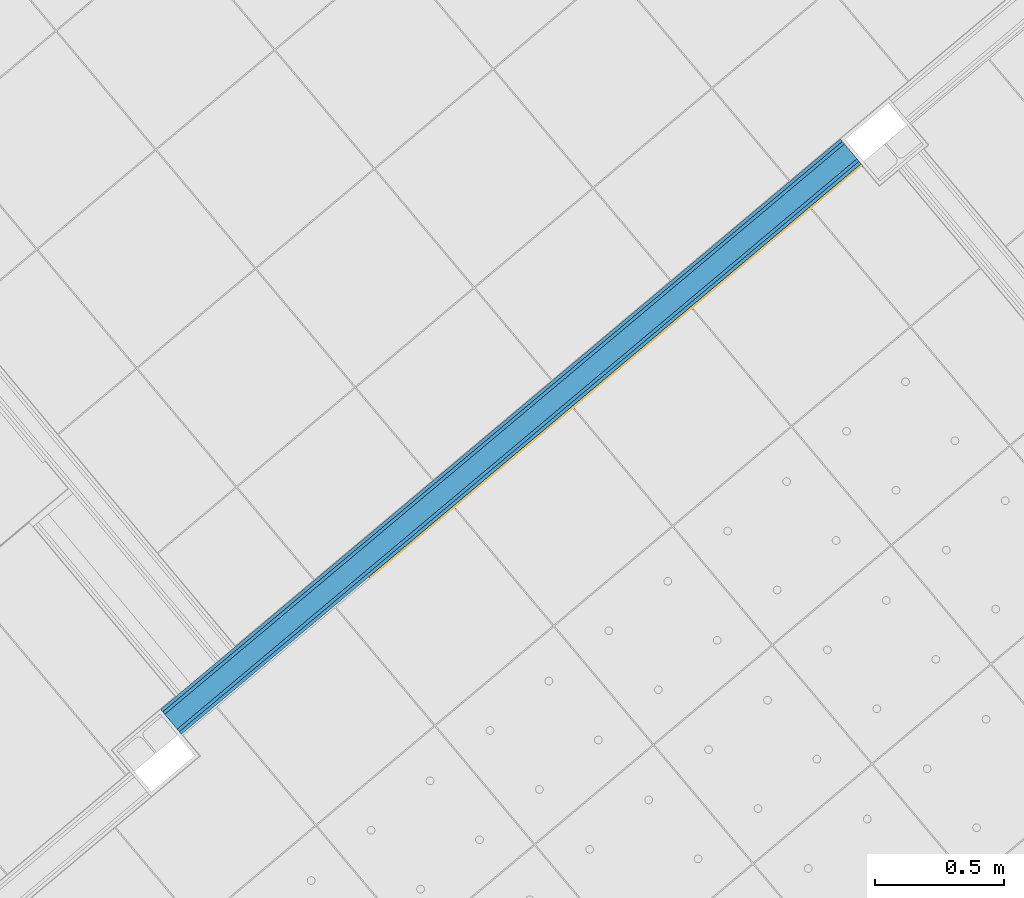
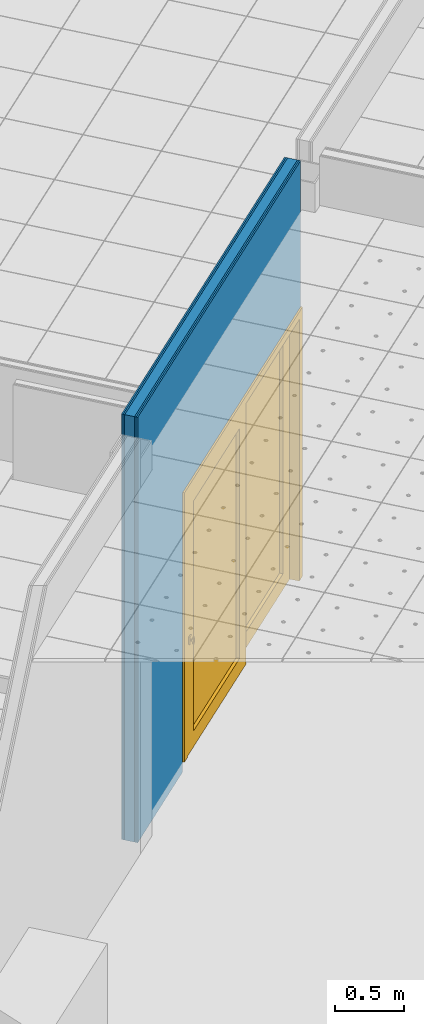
# One storey, part 7 of 338: 5 building element parts, 1 door, 1 opening, 1 element without a shape of its own.
"""IFC2X3 building model written with IfcOpenShell, lengths in millimetres."""

from ifc_helpers import new_model, entity, si_unit, converted_unit, derived_unit, money_unit, direction, frame, origin_with_axes, place, context, subcontext, project, spatial, open_shell, faceted_brep, surface_model, source, transform, mapped, material, type_object, type_shapes, element, fill, aggregate, save


model = new_model("IFC2X3")

# Units and contexts
model_context = context("Model", 3, precision=0.01, world=origin_with_axes(), true_north=direction((0.0, 1.0)))
plan_context = context("Plan", 3, precision=0.01, world=origin_with_axes(), true_north=direction((0.0, 1.0)))
body_context = subcontext(model_context, "Body", "Model", "MODEL_VIEW")
ifc_project = project(units=[si_unit("LENGTHUNIT", "METRE", prefix="MILLI"), si_unit("AREAUNIT", "SQUARE_METRE"), si_unit("VOLUMEUNIT", "CUBIC_METRE"), converted_unit("PLANEANGLEUNIT", "DEGREE", entity("IfcPlaneAngleMeasure", 0.0174532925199), si_unit("PLANEANGLEUNIT", "RADIAN"), dimensions=[0, 0, 0, 0, 0, 0, 0]), money_unit("EUR"), converted_unit("TIMEUNIT", "Year", entity("IfcTimeMeasure", 31556926.0), si_unit("TIMEUNIT", "SECOND"), dimensions=[0, 0, 1, 0, 0, 0, 0]), si_unit("MASSUNIT", "GRAM", prefix="KILO"), si_unit("THERMODYNAMICTEMPERATUREUNIT", "DEGREE_CELSIUS"), si_unit("LUMINOUSINTENSITYUNIT", "LUMEN"), si_unit("ENERGYUNIT", "JOULE", prefix="MEGA"), derived_unit("THERMALCONDUCTANCEUNIT", [(si_unit("POWERUNIT", "WATT"), 1), (si_unit("LENGTHUNIT", "METRE"), -1), (si_unit("THERMODYNAMICTEMPERATUREUNIT", "KELVIN"), -1)]), derived_unit("SPECIFICHEATCAPACITYUNIT", [(si_unit("ENERGYUNIT", "JOULE"), 1), (si_unit("MASSUNIT", "GRAM", prefix="KILO"), -1), (si_unit("THERMODYNAMICTEMPERATUREUNIT", "KELVIN"), -1)]), derived_unit("MASSDENSITYUNIT", [(si_unit("MASSUNIT", "GRAM", prefix="KILO"), 1), (si_unit("VOLUMEUNIT", "CUBIC_METRE"), -1)])], contexts=[model_context, plan_context])

# Site, building, storey
site_placement = place(None, origin_with_axes())
site = spatial("IfcSite", under=ifc_project, at=site_placement, Name="Fortuinstraat Woensdrecht", CompositionType="ELEMENT")
building_placement = place(site_placement, origin_with_axes())
building = spatial("IfcBuilding", under=site, at=building_placement, Name="IKC Fortuna", CompositionType="ELEMENT")
storey_placement = place(building_placement, origin_with_axes())
storey = spatial("IfcBuildingStorey", under=building, at=storey_placement, Name="00 begane grond", CompositionType="ELEMENT", Elevation=0.0)

# Door
door_style = type_object("IfcDoorStyle", Name="DSn 25", ConstructionType="NOTDEFINED", OperationType="USERDEFINED", ParameterTakesPrecedence=False, Sizeable=False)
shared_shape = source(origin_with_axes(), body_context, "Body", "SurfaceModel", [
    faceted_brep([(-1242.5, 0.0, 0.0), (-1175.5, 0.0, 0.0), (-1175.5, -139.0, 0.0), (-1242.5, -139.0, 0.0), (-1242.5, 0.0, 2300.0), (-1175.5, 0.0, 2300.0), (-1175.5, -139.0, 2300.0), (-1242.5, -139.0, 2300.0)], [[[0, 1, 2, 3]], [[0, 4, 5, 1]], [[1, 5, 6, 2]], [[3, 2, 6, 7]], [[4, 0, 3, 7]], [[5, 4, 7, 6]]]),
    faceted_brep([(1242.5, 0.0, 0.0), (1242.5, 0.0, 2300.0), (1242.5, -139.0, 2300.0), (1242.5, -139.0, 0.0), (1175.5, 0.0, 0.0), (1175.5, 0.0, 2300.0), (1175.5, -139.0, 2300.0), (1175.5, -139.0, 0.0)], [[[0, 1, 2, 3]], [[0, 4, 5, 1]], [[1, 5, 6, 2]], [[3, 2, 6, 7]], [[4, 0, 3, 7]], [[5, 4, 7, 6]]]),
    faceted_brep([(-1242.5, 0.0, 2367.0), (-1242.5, 0.0, 2300.0), (-1242.5, -139.0, 2300.0), (-1242.5, -139.0, 2367.0), (1242.5, 0.0, 2367.0), (1242.5, 0.0, 2300.0), (1175.5, 0.0, 2300.0), (-1175.5, 0.0, 2300.0), (-1175.5, -139.0, 2300.0), (1175.5, -139.0, 2300.0), (1242.5, -139.0, 2300.0), (1242.5, -139.0, 2367.0)], [[[0, 1, 2, 3]], [[0, 4, 5, 6, 7, 1]], [[1, 7, 8, 2]], [[3, 2, 8, 9, 10, 11]], [[4, 0, 3, 11]], [[5, 4, 11, 10]], [[6, 5, 10, 9]], [[7, 6, 9, 8]]]),
    faceted_brep([(1175.5, 0.0, 139.0), (1175.5, -64.5, 139.0), (1036.5, -64.5, 139.0), (1036.5, 0.0, 139.0), (1175.5, 0.0, 2161.0), (1175.5, -64.5, 2161.0), (1036.5, -64.5, 2161.0), (1036.5, 0.0, 2161.0)], [[[0, 1, 2, 3]], [[4, 5, 1, 0]], [[1, 5, 6, 2]], [[3, 2, 6, 7]], [[0, 3, 7, 4]], [[7, 6, 5, 4]]]),
    faceted_brep([(-69.5, 0.0, 139.0), (-69.5, -64.5, 139.0), (-69.5, -64.5, 2161.0), (-69.5, 0.0, 2161.0), (69.5, 0.0, 139.0), (69.5, -64.5, 139.0), (69.5, -64.5, 2161.0), (69.5, 0.0, 2161.0)], [[[0, 1, 2, 3]], [[4, 5, 1, 0]], [[1, 5, 6, 2]], [[3, 2, 6, 7]], [[0, 3, 7, 4]], [[7, 6, 5, 4]]]),
    faceted_brep([(1175.5, 0.0, 0.0), (1175.5, -64.5, 0.0), (-69.5, -64.5, 0.0), (-69.5, 0.0, 0.0), (1175.5, 0.0, 139.0), (1175.5, -64.5, 139.0), (1036.5, -64.5, 139.0), (69.5, -64.5, 139.0), (-69.5, -64.5, 139.0), (-69.5, 0.0, 139.0), (69.5, 0.0, 139.0), (1036.5, 0.0, 139.0)], [[[0, 1, 2, 3]], [[4, 5, 1, 0]], [[1, 5, 6, 7, 8, 2]], [[3, 2, 8, 9]], [[0, 3, 9, 10, 11, 4]], [[11, 6, 5, 4]], [[10, 7, 6, 11]], [[9, 8, 7, 10]]]),
    faceted_brep([(1175.5, 0.0, 2300.0), (1175.5, -64.5, 2300.0), (1175.5, -64.5, 2161.0), (1175.5, 0.0, 2161.0), (-69.5, 0.0, 2300.0), (-69.5, -64.5, 2300.0), (-69.5, -64.5, 2161.0), (69.5, -64.5, 2161.0), (1036.5, -64.5, 2161.0), (1036.5, 0.0, 2161.0), (69.5, 0.0, 2161.0), (-69.5, 0.0, 2161.0)], [[[0, 1, 2, 3]], [[4, 5, 1, 0]], [[1, 5, 6, 7, 8, 2]], [[3, 2, 8, 9]], [[0, 3, 9, 10, 11, 4]], [[11, 6, 5, 4]], [[10, 7, 6, 11]], [[9, 8, 7, 10]]]),
    surface_model("IfcShellBasedSurfaceModel", [(1036.5, -26.25, 139.0), (69.5, -26.25, 139.0), (69.5, -26.25, 2161.0), (1036.5, -26.25, 2161.0)], [open_shell([[[0, 1, 2, 3]]])]),
    surface_model("IfcShellBasedSurfaceModel", [(1036.5, -38.25, 139.0), (1036.5, -38.25, 2161.0), (69.5, -38.25, 2161.0), (69.5, -38.25, 139.0)], [open_shell([[[0, 1, 2, 3]]])]),
    faceted_brep([(-1110.5, -134.0, 965.0), (-1110.5, -134.0, 1035.0), (-1110.5, -144.0, 1035.0), (-1110.5, -144.0, 965.0), (-1140.5, -134.0, 965.0), (-1140.5, -134.0, 1035.0), (-1140.5, -144.0, 1035.0), (-1140.5, -144.0, 965.0)], [[[0, 1, 2, 3]], [[0, 4, 5, 1]], [[1, 5, 6, 2]], [[3, 2, 6, 7]], [[4, 0, 3, 7]], [[5, 4, 7, 6]]]),
    faceted_brep([(-1124.13436775, -144.0, 1006.86549696), (-1122.82121597, -144.0, 1006.46715673), (-1121.61100837, -144.0, 1005.82028729), (-1120.55025253, -144.0, 1004.94974747), (-1119.67971271, -144.0, 1003.88899163), (-1119.03284327, -144.0, 1002.67878403), (-1118.63450304, -144.0, 1001.36563225), (-1118.5, -144.0, 1000.0), (-1118.63450304, -144.0, 998.634367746), (-1119.03284327, -144.0, 997.321215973), (-1119.67971271, -144.0, 996.111008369), (-1120.55025253, -144.0, 995.050252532), (-1121.61100837, -144.0, 994.179712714), (-1122.82121597, -144.0, 993.532843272), (-1124.13436775, -144.0, 993.134503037), (-1125.5, -144.0, 993.0), (-1126.86563225, -144.0, 993.134503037), (-1128.17878403, -144.0, 993.532843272), (-1129.38899163, -144.0, 994.179712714), (-1130.44974747, -144.0, 995.050252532), (-1131.32028729, -144.0, 996.111008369), (-1131.96715673, -144.0, 997.321215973), (-1132.36549696, -144.0, 998.634367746), (-1132.5, -144.0, 1000.0), (-1132.36549696, -144.0, 1001.36563225), (-1131.96715673, -144.0, 1002.67878403), (-1131.32028729, -144.0, 1003.88899163), (-1130.44974747, -144.0, 1004.94974747), (-1129.38899163, -144.0, 1005.82028729), (-1128.17878403, -144.0, 1006.46715673), (-1126.86563225, -144.0, 1006.86549696), (-1125.5, -144.0, 1007.0), (-1124.13436775, -159.0, 1006.86549696), (-1122.82121597, -159.0, 1006.46715673), (-1121.61100837, -159.0, 1005.82028729), (-1120.55025253, -159.0, 1004.94974747), (-1119.67971271, -159.0, 1003.88899163), (-1119.03284327, -159.0, 1002.67878403), (-1118.63450304, -159.0, 1001.36563225), (-1118.5, -159.0, 1000.0), (-1118.63450304, -159.0, 998.634367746), (-1119.03284327, -159.0, 997.321215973), (-1119.67971271, -159.0, 996.111008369), (-1120.55025253, -159.0, 995.050252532), (-1121.61100837, -159.0, 994.179712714), (-1122.82121597, -159.0, 993.532843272), (-1124.13436775, -159.0, 993.134503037), (-1125.5, -159.0, 993.0), (-1126.86563225, -159.0, 993.134503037), (-1128.17878403, -159.0, 993.532843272), (-1129.38899163, -159.0, 994.179712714), (-1130.44974747, -159.0, 995.050252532), (-1131.32028729, -159.0, 996.111008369), (-1131.96715673, -159.0, 997.321215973), (-1132.36549696, -159.0, 998.634367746), (-1132.5, -159.0, 1000.0), (-1132.36549696, -159.0, 1001.36563225), (-1131.96715673, -159.0, 1002.67878403), (-1131.32028729, -159.0, 1003.88899163), (-1130.44974747, -159.0, 1004.94974747), (-1129.38899163, -159.0, 1005.82028729), (-1128.17878403, -159.0, 1006.46715673), (-1126.86563225, -159.0, 1006.86549696), (-1125.5, -159.0, 1007.0)], [[[0, 1, 2, 3, 4, 5, 6, 7, 8, 9, 10, 11, 12, 13, 14, 15, 16, 17, 18, 19, 20, 21, 22, 23, 24, 25, 26, 27, 28, 29, 30, 31]], [[1, 0, 32, 33]], [[2, 1, 33, 34]], [[3, 2, 34, 35]], [[4, 3, 35, 36]], [[5, 4, 36, 37]], [[6, 5, 37, 38]], [[7, 6, 38, 39]], [[8, 7, 39, 40]], [[9, 8, 40, 41]], [[10, 9, 41, 42]], [[11, 10, 42, 43]], [[12, 11, 43, 44]], [[13, 12, 44, 45]], [[14, 13, 45, 46]], [[15, 14, 46, 47]], [[16, 15, 47, 48]], [[17, 16, 48, 49]], [[18, 17, 49, 50]], [[19, 18, 50, 51]], [[20, 19, 51, 52]], [[21, 20, 52, 53]], [[22, 21, 53, 54]], [[23, 22, 54, 55]], [[24, 23, 55, 56]], [[25, 24, 56, 57]], [[26, 25, 57, 58]], [[27, 26, 58, 59]], [[28, 27, 59, 60]], [[29, 28, 60, 61]], [[30, 29, 61, 62]], [[31, 30, 62, 63]], [[0, 31, 63, 32]], [[32, 63, 62, 61, 60, 59, 58, 57, 56, 55, 54, 53, 52, 51, 50, 49, 48, 47, 46, 45, 44, 43, 42, 41, 40, 39, 38, 37, 36, 35, 34, 33]]]),
    faceted_brep([(-1115.5, -159.0, 990.0), (-1115.5, -159.0, 1010.0), (-1115.5, -169.0, 1010.0), (-1115.5, -169.0, 990.0), (-1135.5, -159.0, 990.0), (-1135.5, -159.0, 1010.0), (-1135.5, -169.0, 1010.0), (-1135.5, -169.0, 990.0)], [[[0, 1, 2, 3]], [[0, 4, 5, 1]], [[1, 5, 6, 2]], [[3, 2, 6, 7]], [[4, 0, 3, 7]], [[5, 4, 7, 6]]]),
    faceted_brep([(-1115.5, -169.0, 990.0), (-1135.5, -169.0, 990.0), (-1130.5, -167.0, 965.0), (-1120.5, -167.0, 965.0), (-1115.5, -159.0, 990.0), (-1135.5, -159.0, 990.0), (-1130.5, -163.0, 965.0), (-1120.5, -163.0, 965.0)], [[[0, 1, 2, 3]], [[0, 4, 5, 1]], [[1, 5, 6, 2]], [[3, 2, 6, 7]], [[4, 0, 3, 7]], [[5, 4, 7, 6]]]),
    faceted_brep([(-1115.5, -169.0, 1010.0), (-1120.5, -167.0, 1035.0), (-1130.5, -167.0, 1035.0), (-1135.5, -169.0, 1010.0), (-1115.5, -159.0, 1010.0), (-1120.5, -163.0, 1035.0), (-1130.5, -163.0, 1035.0), (-1135.5, -159.0, 1010.0)], [[[0, 1, 2, 3]], [[4, 5, 1, 0]], [[1, 5, 6, 2]], [[3, 2, 6, 7]], [[0, 3, 7, 4]], [[7, 6, 5, 4]]]),
    faceted_brep([(-1110.5, -69.5, 965.0), (-1110.5, -59.5, 965.0), (-1110.5, -59.5, 1035.0), (-1110.5, -69.5, 1035.0), (-1140.5, -69.5, 965.0), (-1140.5, -59.5, 965.0), (-1140.5, -59.5, 1035.0), (-1140.5, -69.5, 1035.0)], [[[0, 1, 2, 3]], [[4, 5, 1, 0]], [[1, 5, 6, 2]], [[3, 2, 6, 7]], [[0, 3, 7, 4]], [[7, 6, 5, 4]]]),
    faceted_brep([(-1124.13436775, -59.5, 1006.86549696), (-1125.5, -59.5, 1007.0), (-1126.86563225, -59.5, 1006.86549696), (-1128.17878403, -59.5, 1006.46715673), (-1129.38899163, -59.5, 1005.82028729), (-1130.44974747, -59.5, 1004.94974747), (-1131.32028729, -59.5, 1003.88899163), (-1131.96715673, -59.5, 1002.67878403), (-1132.36549696, -59.5, 1001.36563225), (-1132.5, -59.5, 1000.0), (-1132.36549696, -59.5, 998.634367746), (-1131.96715673, -59.5, 997.321215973), (-1131.32028729, -59.5, 996.111008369), (-1130.44974747, -59.5, 995.050252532), (-1129.38899163, -59.5, 994.179712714), (-1128.17878403, -59.5, 993.532843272), (-1126.86563225, -59.5, 993.134503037), (-1125.5, -59.5, 993.0), (-1124.13436775, -59.5, 993.134503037), (-1122.82121597, -59.5, 993.532843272), (-1121.61100837, -59.5, 994.179712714), (-1120.55025253, -59.5, 995.050252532), (-1119.67971271, -59.5, 996.111008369), (-1119.03284327, -59.5, 997.321215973), (-1118.63450304, -59.5, 998.634367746), (-1118.5, -59.5, 1000.0), (-1118.63450304, -59.5, 1001.36563225), (-1119.03284327, -59.5, 1002.67878403), (-1119.67971271, -59.5, 1003.88899163), (-1120.55025253, -59.5, 1004.94974747), (-1121.61100837, -59.5, 1005.82028729), (-1122.82121597, -59.5, 1006.46715673), (-1124.13436775, -44.5, 1006.86549696), (-1125.5, -44.5, 1007.0), (-1126.86563225, -44.5, 1006.86549696), (-1128.17878403, -44.5, 1006.46715673), (-1129.38899163, -44.5, 1005.82028729), (-1130.44974747, -44.5, 1004.94974747), (-1131.32028729, -44.5, 1003.88899163), (-1131.96715673, -44.5, 1002.67878403), (-1132.36549696, -44.5, 1001.36563225), (-1132.5, -44.5, 1000.0), (-1132.36549696, -44.5, 998.634367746), (-1131.96715673, -44.5, 997.321215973), (-1131.32028729, -44.5, 996.111008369), (-1130.44974747, -44.5, 995.050252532), (-1129.38899163, -44.5, 994.179712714), (-1128.17878403, -44.5, 993.532843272), (-1126.86563225, -44.5, 993.134503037), (-1125.5, -44.5, 993.0), (-1124.13436775, -44.5, 993.134503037), (-1122.82121597, -44.5, 993.532843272), (-1121.61100837, -44.5, 994.179712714), (-1120.55025253, -44.5, 995.050252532), (-1119.67971271, -44.5, 996.111008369), (-1119.03284327, -44.5, 997.321215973), (-1118.63450304, -44.5, 998.634367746), (-1118.5, -44.5, 1000.0), (-1118.63450304, -44.5, 1001.36563225), (-1119.03284327, -44.5, 1002.67878403), (-1119.67971271, -44.5, 1003.88899163), (-1120.55025253, -44.5, 1004.94974747), (-1121.61100837, -44.5, 1005.82028729), (-1122.82121597, -44.5, 1006.46715673)], [[[0, 1, 2, 3, 4, 5, 6, 7, 8, 9, 10, 11, 12, 13, 14, 15, 16, 17, 18, 19, 20, 21, 22, 23, 24, 25, 26, 27, 28, 29, 30, 31]], [[0, 32, 33, 1]], [[1, 33, 34, 2]], [[2, 34, 35, 3]], [[3, 35, 36, 4]], [[4, 36, 37, 5]], [[5, 37, 38, 6]], [[6, 38, 39, 7]], [[7, 39, 40, 8]], [[8, 40, 41, 9]], [[9, 41, 42, 10]], [[10, 42, 43, 11]], [[11, 43, 44, 12]], [[12, 44, 45, 13]], [[13, 45, 46, 14]], [[14, 46, 47, 15]], [[15, 47, 48, 16]], [[16, 48, 49, 17]], [[17, 49, 50, 18]], [[18, 50, 51, 19]], [[19, 51, 52, 20]], [[20, 52, 53, 21]], [[21, 53, 54, 22]], [[22, 54, 55, 23]], [[23, 55, 56, 24]], [[24, 56, 57, 25]], [[25, 57, 58, 26]], [[26, 58, 59, 27]], [[27, 59, 60, 28]], [[28, 60, 61, 29]], [[29, 61, 62, 30]], [[30, 62, 63, 31]], [[31, 63, 32, 0]], [[32, 63, 62, 61, 60, 59, 58, 57, 56, 55, 54, 53, 52, 51, 50, 49, 48, 47, 46, 45, 44, 43, 42, 41, 40, 39, 38, 37, 36, 35, 34, 33]]]),
    faceted_brep([(-1115.5, -44.5, 990.0), (-1115.5, -34.5, 990.0), (-1115.5, -34.5, 1010.0), (-1115.5, -44.5, 1010.0), (-1135.5, -44.5, 990.0), (-1135.5, -34.5, 990.0), (-1135.5, -34.5, 1010.0), (-1135.5, -44.5, 1010.0)], [[[0, 1, 2, 3]], [[4, 5, 1, 0]], [[1, 5, 6, 2]], [[3, 2, 6, 7]], [[0, 3, 7, 4]], [[7, 6, 5, 4]]]),
    faceted_brep([(-1115.5, -34.5, 990.0), (-1120.5, -36.5, 965.0), (-1130.5, -36.5, 965.0), (-1135.5, -34.5, 990.0), (-1115.5, -44.5, 990.0), (-1120.5, -40.5, 965.0), (-1130.5, -40.5, 965.0), (-1135.5, -44.5, 990.0)], [[[0, 1, 2, 3]], [[4, 5, 1, 0]], [[1, 5, 6, 2]], [[3, 2, 6, 7]], [[0, 3, 7, 4]], [[7, 6, 5, 4]]]),
    faceted_brep([(-1115.5, -34.5, 1010.0), (-1135.5, -34.5, 1010.0), (-1130.5, -36.5, 1035.0), (-1120.5, -36.5, 1035.0), (-1115.5, -44.5, 1010.0), (-1135.5, -44.5, 1010.0), (-1130.5, -40.5, 1035.0), (-1120.5, -40.5, 1035.0)], [[[0, 1, 2, 3]], [[0, 4, 5, 1]], [[1, 5, 6, 2]], [[3, 2, 6, 7]], [[4, 0, 3, 7]], [[5, 4, 7, 6]]]),
    faceted_brep([(69.5, -69.5, 139.0), (69.5, -134.0, 139.0), (-69.5, -134.0, 139.0), (-69.5, -69.5, 139.0), (69.5, -69.5, 2161.0), (69.5, -134.0, 2161.0), (-69.5, -134.0, 2161.0), (-69.5, -69.5, 2161.0)], [[[0, 1, 2, 3]], [[4, 5, 1, 0]], [[1, 5, 6, 2]], [[3, 2, 6, 7]], [[0, 3, 7, 4]], [[7, 6, 5, 4]]]),
    faceted_brep([(-1175.5, -69.5, 139.0), (-1175.5, -134.0, 139.0), (-1175.5, -134.0, 2161.0), (-1175.5, -69.5, 2161.0), (-1036.5, -69.5, 139.0), (-1036.5, -134.0, 139.0), (-1036.5, -134.0, 2161.0), (-1036.5, -69.5, 2161.0)], [[[0, 1, 2, 3]], [[4, 5, 1, 0]], [[1, 5, 6, 2]], [[3, 2, 6, 7]], [[0, 3, 7, 4]], [[7, 6, 5, 4]]]),
    faceted_brep([(69.5, -69.5, 0.0), (69.5, -134.0, 0.0), (-1175.5, -134.0, 0.0), (-1175.5, -69.5, 0.0), (69.5, -69.5, 139.0), (69.5, -134.0, 139.0), (-69.5, -134.0, 139.0), (-1036.5, -134.0, 139.0), (-1175.5, -134.0, 139.0), (-1175.5, -69.5, 139.0), (-1036.5, -69.5, 139.0), (-69.5, -69.5, 139.0)], [[[0, 1, 2, 3]], [[4, 5, 1, 0]], [[1, 5, 6, 7, 8, 2]], [[3, 2, 8, 9]], [[0, 3, 9, 10, 11, 4]], [[11, 6, 5, 4]], [[10, 7, 6, 11]], [[9, 8, 7, 10]]]),
    faceted_brep([(69.5, -69.5, 2300.0), (69.5, -134.0, 2300.0), (69.5, -134.0, 2161.0), (69.5, -69.5, 2161.0), (-1175.5, -69.5, 2300.0), (-1175.5, -134.0, 2300.0), (-1175.5, -134.0, 2161.0), (-1036.5, -134.0, 2161.0), (-69.5, -134.0, 2161.0), (-69.5, -69.5, 2161.0), (-1036.5, -69.5, 2161.0), (-1175.5, -69.5, 2161.0)], [[[0, 1, 2, 3]], [[4, 5, 1, 0]], [[1, 5, 6, 7, 8, 2]], [[3, 2, 8, 9]], [[0, 3, 9, 10, 11, 4]], [[11, 6, 5, 4]], [[10, 7, 6, 11]], [[9, 8, 7, 10]]]),
    surface_model("IfcShellBasedSurfaceModel", [(-69.5, -95.75, 139.0), (-1036.5, -95.75, 139.0), (-1036.5, -95.75, 2161.0), (-69.5, -95.75, 2161.0)], [open_shell([[[0, 1, 2, 3]]])]),
    surface_model("IfcShellBasedSurfaceModel", [(-69.5, -107.75, 139.0), (-69.5, -107.75, 2161.0), (-1036.5, -107.75, 2161.0), (-1036.5, -107.75, 139.0)], [open_shell([[[0, 1, 2, 3]]])]),
])
type_shapes(door_style, [shared_shape])
wall_placement = place(storey_placement, frame((12409.4912048, -8608.94282343, 1360.0), z_axis=(0.0, 0.0, 1.0), x_axis=(0.766044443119, 0.642787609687, 0.0)))
opening_placement = place(wall_placement, frame((2188.80355756, 0.0, 90.0), z_axis=(0.0, 0.0, 1.0), x_axis=(1.0, 0.0, 0.0)))
door_placement = place(opening_placement, frame((-1242.5, 0.0, 0.0), z_axis=(0.0, 0.0, 1.0), x_axis=(1.0, 0.0, 0.0)))
door = element("IfcDoor", 1, at=door_placement, inside=storey, type_object=door_style, Name="32_Deur_h.03", ObjectType="DOOR", OverallHeight=2367.0, OverallWidth=2485.0, context=body_context, shape_type="MappedRepresentation", body=[
    mapped(shared_shape, transform((1242.5, 125.0, 0.0))),
])

# Wall, opening
wall_type = type_object("IfcWallType", Name="MS125 2.75.2A 125", PredefinedType="NOTDEFINED")
wall = element("IfcWall", 2, at=wall_placement, inside=storey, type_object=wall_type, Name="22_Wand_Binnenwand")
opening = element("IfcOpeningElement", 3, at=opening_placement, cuts=wall, Name="32_Deur_h.03", context=body_context, shape_type="Brep", body=[
    faceted_brep([(1242.5, -125.0, 2367.0), (1242.5, -125.0, -90.0), (1242.5, 250.0, -90.0), (1242.5, 250.0, 2367.0), (-1242.5, -125.0, 2367.0), (-1242.5, -125.0, -90.0), (-1242.5, 250.0, -90.0), (-1242.5, 250.0, 2367.0)], [[[0, 1, 2, 3]], [[0, 4, 5, 1]], [[1, 5, 6, 2]], [[3, 2, 6, 7]], [[4, 0, 3, 7]], [[5, 4, 7, 6]]]),
])

fill(opening, door)

# Building element part
ifc_material_1 = material(Name="Gipsplaat")
building_element_part_1_placement = place(wall_placement, origin_with_axes())
building_element_part_1 = element("IfcBuildingElementPart", 4, at=building_element_part_1_placement, material=ifc_material_1, Name="Gipsplaat", context=body_context, shape_type="Brep", body=[
    faceted_brep([(946.303557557, 112.5, 0.0), (946.303557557, 112.5, 2457.0), (3431.30355756, 112.5, 2457.0), (3431.30355756, 112.5, 3740.0), (0.0, 112.5, 3740.0), (0.0, 112.5, 0.0), (946.303557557, 125.0, 0.0), (946.303557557, 125.0, 2457.0), (3431.30355756, 125.0, 2457.0), (3431.30355756, 125.0, 3740.0), (0.0, 125.0, 3740.0), (0.0, 125.0, 0.0)], [[[0, 1, 2, 3, 4, 5]], [[1, 0, 6, 7]], [[8, 2, 1, 7]], [[2, 8, 9, 3]], [[9, 10, 4, 3]], [[10, 11, 5, 4]], [[6, 0, 5, 11]], [[7, 6, 11, 10, 9, 8]]]),
])

building_element_part_2_placement = place(wall_placement, origin_with_axes())
building_element_part_2 = element("IfcBuildingElementPart", 5, at=building_element_part_2_placement, material=ifc_material_1, Name="Gipsplaat", context=body_context, shape_type="Brep", body=[
    faceted_brep([(946.303557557, 100.0, 0.0), (946.303557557, 100.0, 2457.0), (3431.30355756, 100.0, 2457.0), (3431.30355756, 100.0, 3740.0), (0.0, 100.0, 3740.0), (0.0, 100.0, 0.0), (946.303557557, 112.5, 0.0), (946.303557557, 112.5, 2457.0), (3431.30355756, 112.5, 2457.0), (3431.30355756, 112.5, 3740.0), (0.0, 112.5, 3740.0), (0.0, 112.5, 0.0)], [[[0, 1, 2, 3, 4, 5]], [[1, 0, 6, 7]], [[8, 2, 1, 7]], [[2, 8, 9, 3]], [[9, 10, 4, 3]], [[10, 11, 5, 4]], [[6, 0, 5, 11]], [[7, 6, 11, 10, 9, 8]]]),
])

ifc_material_2 = material(Name="Isolatie - Steenwol LSW")
building_element_part_3_placement = place(wall_placement, origin_with_axes())
building_element_part_3 = element("IfcBuildingElementPart", 6, at=building_element_part_3_placement, material=ifc_material_2, Name="Isolatie - Steenwol LSW", context=body_context, shape_type="Brep", body=[
    faceted_brep([(946.303557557, 25.0, 0.0), (946.303557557, 25.0, 2457.0), (3431.30355756, 25.0, 2457.0), (3431.30355756, 25.0, 3740.0), (0.0, 25.0, 3740.0), (0.0, 25.0, 0.0), (946.303557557, 100.0, 0.0), (946.303557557, 100.0, 2457.0), (3431.30355756, 100.0, 2457.0), (3431.30355756, 100.0, 3740.0), (0.0, 100.0, 3740.0), (0.0, 100.0, 0.0)], [[[0, 1, 2, 3, 4, 5]], [[1, 0, 6, 7]], [[8, 2, 1, 7]], [[2, 8, 9, 3]], [[9, 10, 4, 3]], [[10, 11, 5, 4]], [[6, 0, 5, 11]], [[7, 6, 11, 10, 9, 8]]]),
])

building_element_part_4_placement = place(wall_placement, origin_with_axes())
building_element_part_4 = element("IfcBuildingElementPart", 7, at=building_element_part_4_placement, material=ifc_material_1, Name="Gipsplaat", context=body_context, shape_type="Brep", body=[
    faceted_brep([(946.303557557, 12.5, 0.0), (946.303557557, 12.5, 2457.0), (3431.30355756, 12.5, 2457.0), (3431.30355756, 12.5, 3740.0), (0.0, 12.5, 3740.0), (0.0, 12.5, 0.0), (946.303557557, 25.0, 0.0), (946.303557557, 25.0, 2457.0), (3431.30355756, 25.0, 2457.0), (3431.30355756, 25.0, 3740.0), (0.0, 25.0, 3740.0), (0.0, 25.0, 0.0)], [[[0, 1, 2, 3, 4, 5]], [[1, 0, 6, 7]], [[8, 2, 1, 7]], [[2, 8, 9, 3]], [[9, 10, 4, 3]], [[10, 11, 5, 4]], [[6, 0, 5, 11]], [[7, 6, 11, 10, 9, 8]]]),
])

building_element_part_5_placement = place(wall_placement, origin_with_axes())
building_element_part_5 = element("IfcBuildingElementPart", 8, at=building_element_part_5_placement, material=ifc_material_1, Name="Gipsplaat", context=body_context, shape_type="Brep", body=[
    faceted_brep([(946.303557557, 0.0, 0.0), (946.303557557, 0.0, 2457.0), (3431.30355756, 0.0, 2457.0), (3431.30355756, 0.0, 3740.0), (0.0, 0.0, 3740.0), (0.0, 0.0, 0.0), (946.303557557, 12.5, 0.0), (946.303557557, 12.5, 2457.0), (3431.30355756, 12.5, 2457.0), (3431.30355756, 12.5, 3740.0), (0.0, 12.5, 3740.0), (0.0, 12.5, 0.0)], [[[0, 1, 2, 3, 4, 5]], [[1, 0, 6, 7]], [[8, 2, 1, 7]], [[2, 8, 9, 3]], [[9, 10, 4, 3]], [[10, 11, 5, 4]], [[6, 0, 5, 11]], [[7, 6, 11, 10, 9, 8]]]),
])

aggregate(wall, [building_element_part_1, building_element_part_2, building_element_part_3, building_element_part_4, building_element_part_5])

save(model, "model.ifc")
